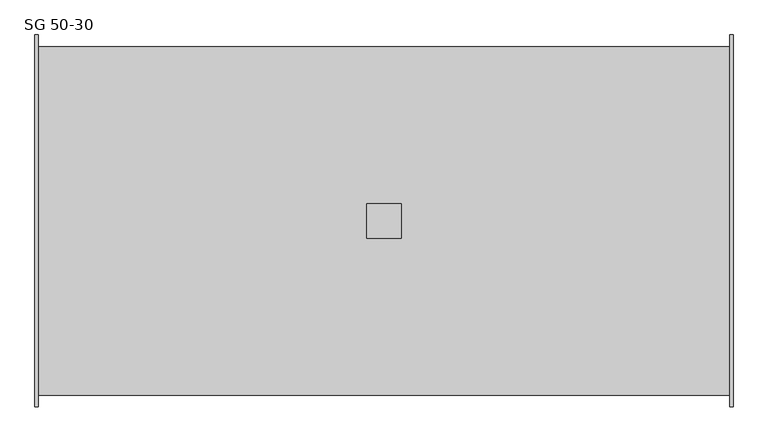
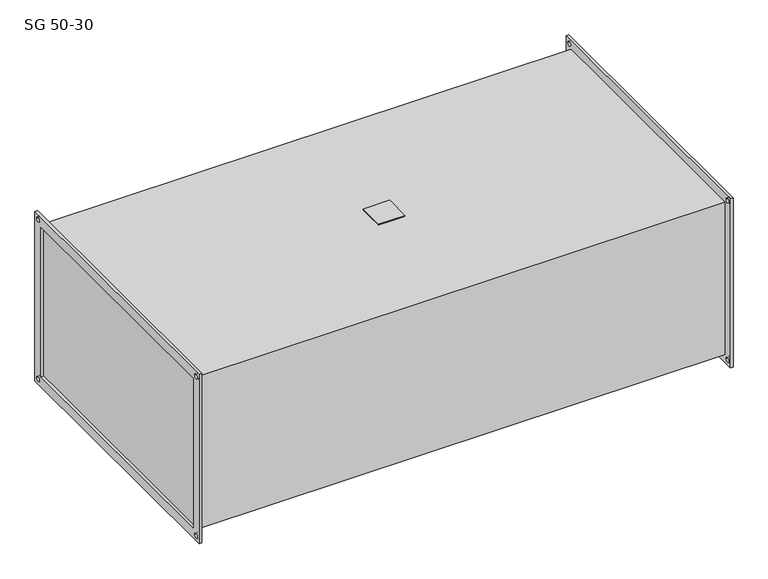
"""IFC4 building model written with IfcOpenShell, lengths in millimetres: damper geometry, KORF_Шумоглушитель_SG : SG 50-30."""

from ifc_helpers import new_model, si_unit, point, frame, frame_2d, origin, place, context, project, spatial, polyline, circle_curve, trimmed, segment, composite_curve, outline, extrude, source, transform, mapped, element, save


def sg_50_30_2e38eed7(model_context):
    return source(origin(), model_context, "Body", "SweptSolid", [
        extrude(outline(polyline([(482.0, -25.0), (482.0, 25.0), (532.0, 25.0), (532.0, -25.0), (482.0, -25.0)])), frame((0.0, 0.0, 153.0), z_axis=(0.0, 0.0, 1.0), x_axis=(1.0, 0.0, 0.0)), (0.0, 0.0, 1.0), 2.0),
        extrude(outline(polyline([(-270.0, 170.0), (270.0, 170.0), (270.0, -170.0), (-270.0, -170.0), (-270.0, 170.0)]), holes=[polyline([(-250.0, 150.0), (-250.0, -150.0), (250.0, -150.0), (250.0, 150.0), (-250.0, 150.0)]), composite_curve([segment(trimmed(circle_curve(frame_2d((260.0, 160.0)), 4.5), [point((255.5, 160.0))], [point((264.5, 160.0))], True, "CARTESIAN"), True, "CONTINUOUS"), segment(trimmed(circle_curve(frame_2d((260.0, 160.0)), 4.5), [point((264.5, 160.0))], [point((255.5, 160.0))], True, "CARTESIAN"), True, "CONTINUOUS")], self_intersect=False), composite_curve([segment(trimmed(circle_curve(frame_2d((-260.0, 160.0)), 4.5), [point((-264.5, 160.0))], [point((-255.5, 160.0))], True, "CARTESIAN"), True, "CONTINUOUS"), segment(trimmed(circle_curve(frame_2d((-260.0, 160.0)), 4.5), [point((-255.5, 160.0))], [point((-264.5, 160.0))], True, "CARTESIAN"), True, "CONTINUOUS")], self_intersect=False), composite_curve([segment(trimmed(circle_curve(frame_2d((-260.0, -160.0)), 4.5), [point((-264.5, -160.0))], [point((-255.5, -160.0))], True, "CARTESIAN"), True, "CONTINUOUS"), segment(trimmed(circle_curve(frame_2d((-260.0, -160.0)), 4.5), [point((-255.5, -160.0))], [point((-264.5, -160.0))], True, "CARTESIAN"), True, "CONTINUOUS")], self_intersect=False), composite_curve([segment(trimmed(circle_curve(frame_2d((260.0, -160.0)), 4.5), [point((255.5, -160.0))], [point((264.5, -160.0))], True, "CARTESIAN"), True, "CONTINUOUS"), segment(trimmed(circle_curve(frame_2d((260.0, -160.0)), 4.5), [point((264.5, -160.0))], [point((255.5, -160.0))], True, "CARTESIAN"), True, "CONTINUOUS")], self_intersect=False)]), frame((1009.0, 0.0, 0.0), z_axis=(1.0, 0.0, 0.0), x_axis=(0.0, 1.0, 0.0)), (0.0, 0.0, 1.0), 5.0),
        extrude(outline(polyline([(-270.0, 170.0), (270.0, 170.0), (270.0, -170.0), (-270.0, -170.0), (-270.0, 170.0)]), holes=[polyline([(-250.0, 150.0), (-250.0, -150.0), (250.0, -150.0), (250.0, 150.0), (-250.0, 150.0)]), composite_curve([segment(trimmed(circle_curve(frame_2d((260.0, 160.0)), 4.5), [point((255.5, 160.0))], [point((264.5, 160.0))], True, "CARTESIAN"), True, "CONTINUOUS"), segment(trimmed(circle_curve(frame_2d((260.0, 160.0)), 4.5), [point((264.5, 160.0))], [point((255.5, 160.0))], True, "CARTESIAN"), True, "CONTINUOUS")], self_intersect=False), composite_curve([segment(trimmed(circle_curve(frame_2d((-260.0, 160.0)), 4.5), [point((-264.5, 160.0))], [point((-255.5, 160.0))], True, "CARTESIAN"), True, "CONTINUOUS"), segment(trimmed(circle_curve(frame_2d((-260.0, 160.0)), 4.5), [point((-255.5, 160.0))], [point((-264.5, 160.0))], True, "CARTESIAN"), True, "CONTINUOUS")], self_intersect=False), composite_curve([segment(trimmed(circle_curve(frame_2d((-260.0, -160.0)), 4.5), [point((-264.5, -160.0))], [point((-255.5, -160.0))], True, "CARTESIAN"), True, "CONTINUOUS"), segment(trimmed(circle_curve(frame_2d((-260.0, -160.0)), 4.5), [point((-255.5, -160.0))], [point((-264.5, -160.0))], True, "CARTESIAN"), True, "CONTINUOUS")], self_intersect=False), composite_curve([segment(trimmed(circle_curve(frame_2d((260.0, -160.0)), 4.5), [point((255.5, -160.0))], [point((264.5, -160.0))], True, "CARTESIAN"), True, "CONTINUOUS"), segment(trimmed(circle_curve(frame_2d((260.0, -160.0)), 4.5), [point((264.5, -160.0))], [point((255.5, -160.0))], True, "CARTESIAN"), True, "CONTINUOUS")], self_intersect=False)]), frame((0.0, 0.0, 0.0), z_axis=(1.0, 0.0, 0.0), x_axis=(0.0, 1.0, 0.0)), (0.0, 0.0, 1.0), 5.0),
        extrude(outline(polyline([(1009.0, 253.0), (1009.0, -253.0), (5.0, -253.0), (5.0, 253.0), (1009.0, 253.0)])), frame((0.0, 0.0, -153.0), z_axis=(0.0, 0.0, 1.0), x_axis=(1.0, 0.0, 0.0)), (0.0, 0.0, 1.0), 306.0),
    ])


if __name__ == "__main__":
    model = new_model("IFC4")
    model_context = context("Model", 3, world=origin())
    ifc_project = project(units=[si_unit("LENGTHUNIT", "METRE", prefix="MILLI")], contexts=[model_context])
    site = spatial("IfcSite", under=ifc_project)
    building = spatial("IfcBuilding", under=site)
    placement = place(None, origin())
    sg_50_30_shape = sg_50_30_2e38eed7(model_context)
    element("IfcDamper", 1, ObjectType="KORF_Шумоглушитель_SG : SG 50-30", at=placement, inside=building, context=model_context, shape_type="MappedRepresentation", body=[
        mapped(sg_50_30_shape, transform((0.0, 0.0, 0.0), x_axis=(1.0, 0.0, 0.0), y_axis=(0.0, 1.0, 0.0), z_axis=(0.0, 0.0, 1.0))),
    ])
    save(model, "model.ifc")
